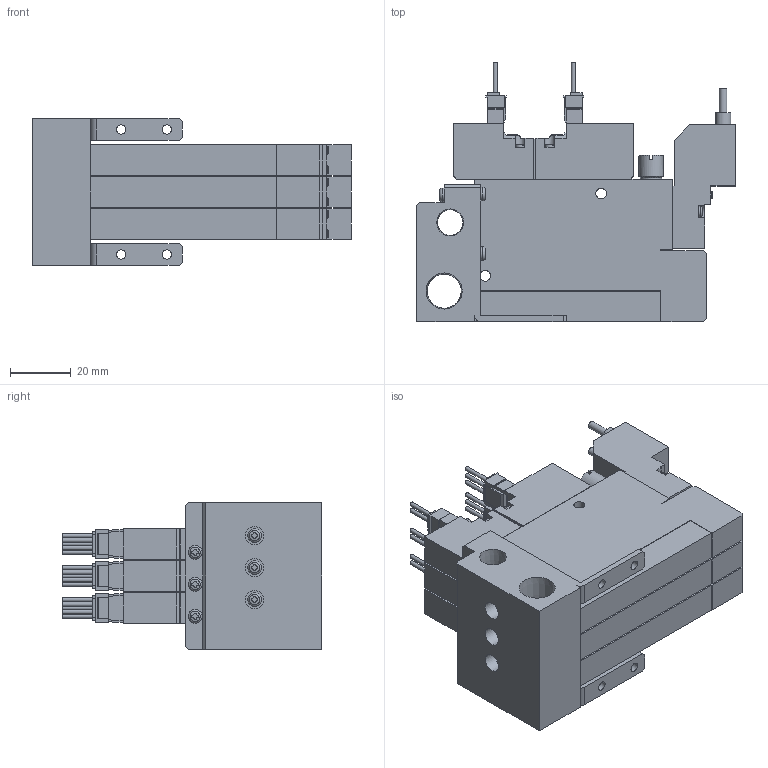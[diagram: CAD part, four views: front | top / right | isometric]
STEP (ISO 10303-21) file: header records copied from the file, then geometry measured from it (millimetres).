
FILE_DESCRIPTION(('STEP AP203'),'1');
FILE_NAME('V8C5WC303_3D.stp','2024-09-04T09:43:23',(' '),(' '),'Spatial InterOp 3D',' ',' ');
FILE_SCHEMA(('CONFIG_CONTROL_DESIGN'));
Length unit declared in the file: millimetre
Products named in the file (5): BSC1M※※V8C5WC303; Solenoid valve W; Pressure Sensor V8; Unit-C; BaseMC30R
Assembly tree (10 placements, depth 2):
  BSC1M※※V8C5WC303
    Solenoid valve W  x3
    Pressure Sensor V8  x3
    Unit-C  x3
    BaseMC30R
Bounding box: 104.5 x 85.05 x 48 mm (x, y, z)
Volume: 180467 mm3; surface area: 63909.8 mm2
Topology: 10 solids, 10 shells, 1248 faces, 3339 edges, 2208 vertices
Faces by surface type: plane 950, cylinder 229, cone 31, torus 22, sphere 16
Full cylindrical faces by diameter (mm): 1.4 x15, 2.5 x15, 3 x16, 3.5 x18, 4 x3, 4.134 x6, 4.5 x10, 5 x3, 5.5 x3, 6 x3, 7 x6, 8 x3, 8.422 x1, 11.233 x1
Entity records: 17157 total; most frequent: CARTESIAN_POINT 3763, DIRECTION 2650, ORIENTED_EDGE 2616, EDGE_CURVE 1308, VERTEX_POINT 918, LINE 918, VECTOR 918, AXIS2_PLACEMENT_3D 866
